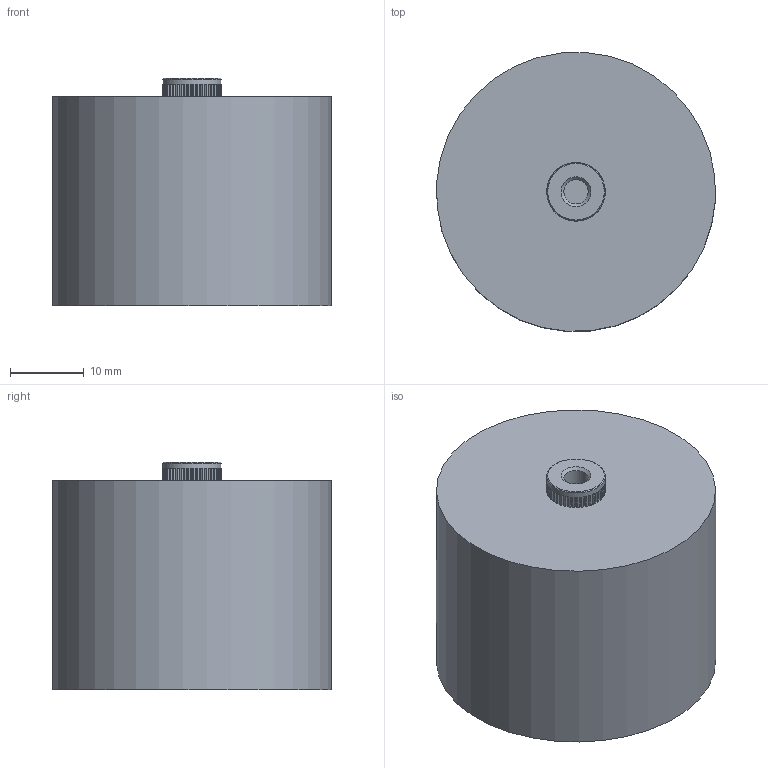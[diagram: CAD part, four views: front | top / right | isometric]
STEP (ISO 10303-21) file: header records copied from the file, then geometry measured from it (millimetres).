
FILE_DESCRIPTION((''),'2;1');
FILE_NAME('I:\Marketing\M6t1\M6T1 - Internal\Drawings\Werk 3\Finished product\Ceramite\Upload for homepage\715\715C###KT###\715C40KTT70.stp','2013-06-10T14:44:54',('sherden'),(''),'Autodesk Inventor 2013','Autodesk Inventor 2013','');
FILE_SCHEMA(('AUTOMOTIVE_DESIGN { 1 2 10303 214 0 1 1 1 }'));
Length unit declared in the file: millimetre
Products named in the file (1): 715C40KTT70
Bounding box: 37.92 x 37.92 x 31 mm (x, y, z)
Volume: 32308.2 mm3; surface area: 6018.4 mm2
Topology: 1 solids, 41 shells, 573 faces, 1419 edges, 932 vertices
Faces by surface type: plane 486, cylinder 84, cone 3
Full cylindrical faces by diameter (mm): 3.302 x2, 7.95 x1, 38 x1
Entity records: 17304 total; most frequent: CARTESIAN_POINT 2916, ORIENTED_EDGE 2822, DIRECTION 2810, EDGE_CURVE 1411, VECTOR 1160, LINE 1160, VERTEX_POINT 931, AXIS2_PLACEMENT_3D 825
